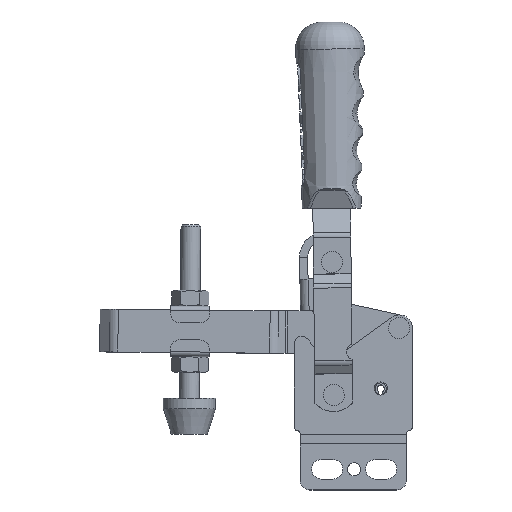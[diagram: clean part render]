
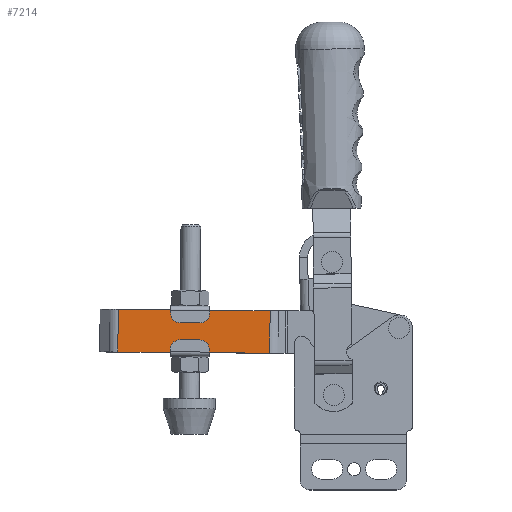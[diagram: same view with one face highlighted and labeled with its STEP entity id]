
A CAD part, top view. The second image highlights one B-rep face of the part: STEP entity #7214.
In plain terms, the highlighted planar face has unit normal (0, 0, 1).
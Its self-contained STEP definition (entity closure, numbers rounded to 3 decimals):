
#1089 = CARTESIAN_POINT ( 'NONE',  ( 85.916, 8., 6. ) ) ;
#2247 = DIRECTION ( 'NONE',  ( 0., 1., 0. ) ) ;
#2833 = VECTOR ( 'NONE', #19581, 1000. ) ;
#2885 = PLANE ( 'NONE',  #22847 ) ;
#3128 = EDGE_CURVE ( 'NONE', #24347, #13345, #17204, .T. ) ;
#4092 = EDGE_LOOP ( 'NONE', ( #10245, #19249, #20690, #19735 ) ) ;
#4473 = LINE ( 'NONE', #6092, #2833 ) ;
#4879 = EDGE_CURVE ( 'NONE', #18162, #24347, #13357, .T. ) ;
#5799 = CARTESIAN_POINT ( 'NONE',  ( 39.48, 0., 6. ) ) ;
#5833 = VERTEX_POINT ( 'NONE', #8835 ) ;
#6092 = CARTESIAN_POINT ( 'NONE',  ( 90.744, 8., 6. ) ) ;
#7214 = ADVANCED_FACE ( 'NONE', ( #21552 ), #2885, .F. ) ;
#7796 = DIRECTION ( 'NONE',  ( 0., 1., 0. ) ) ;
#8835 = CARTESIAN_POINT ( 'NONE',  ( 39.48, 8., 6. ) ) ;
#9244 = CARTESIAN_POINT ( 'NONE',  ( 85.916, -5., 6. ) ) ;
#10245 = ORIENTED_EDGE ( 'NONE', *, *, #3128, .T. ) ;
#11763 = CARTESIAN_POINT ( 'NONE',  ( 85.916, 0., 6. ) ) ;
#13129 = VECTOR ( 'NONE', #2247, 1000. ) ;
#13345 = VERTEX_POINT ( 'NONE', #1089 ) ;
#13357 = LINE ( 'NONE', #18924, #15189 ) ;
#15154 = EDGE_CURVE ( 'NONE', #13345, #5833, #4473, .T. ) ;
#15189 = VECTOR ( 'NONE', #16945, 1000. ) ;
#15190 = LINE ( 'NONE', #5799, #16791 ) ;
#16791 = VECTOR ( 'NONE', #7796, 1000. ) ;
#16945 = DIRECTION ( 'NONE',  ( 1., 0., 0. ) ) ;
#17204 = LINE ( 'NONE', #11763, #13129 ) ;
#18162 = VERTEX_POINT ( 'NONE', #22491 ) ;
#18924 = CARTESIAN_POINT ( 'NONE',  ( 21.744, -5., 6. ) ) ;
#19249 = ORIENTED_EDGE ( 'NONE', *, *, #15154, .T. ) ;
#19581 = DIRECTION ( 'NONE',  ( -1., 0., 0. ) ) ;
#19735 = ORIENTED_EDGE ( 'NONE', *, *, #4879, .T. ) ;
#19947 = DIRECTION ( 'NONE',  ( 1., 0., 0. ) ) ;
#20068 = DIRECTION ( 'NONE',  ( 0., 0., -1. ) ) ;
#20390 = EDGE_CURVE ( 'NONE', #18162, #5833, #15190, .T. ) ;
#20690 = ORIENTED_EDGE ( 'NONE', *, *, #20390, .F. ) ;
#21552 = FACE_OUTER_BOUND ( 'NONE', #4092, .T. ) ;
#22491 = CARTESIAN_POINT ( 'NONE',  ( 39.48, -5., 6. ) ) ;
#22847 = AXIS2_PLACEMENT_3D ( 'NONE', #23638, #20068, #19947 ) ;
#23638 = CARTESIAN_POINT ( 'NONE',  ( -1.256, 0., 6. ) ) ;
#24347 = VERTEX_POINT ( 'NONE', #9244 ) ;
